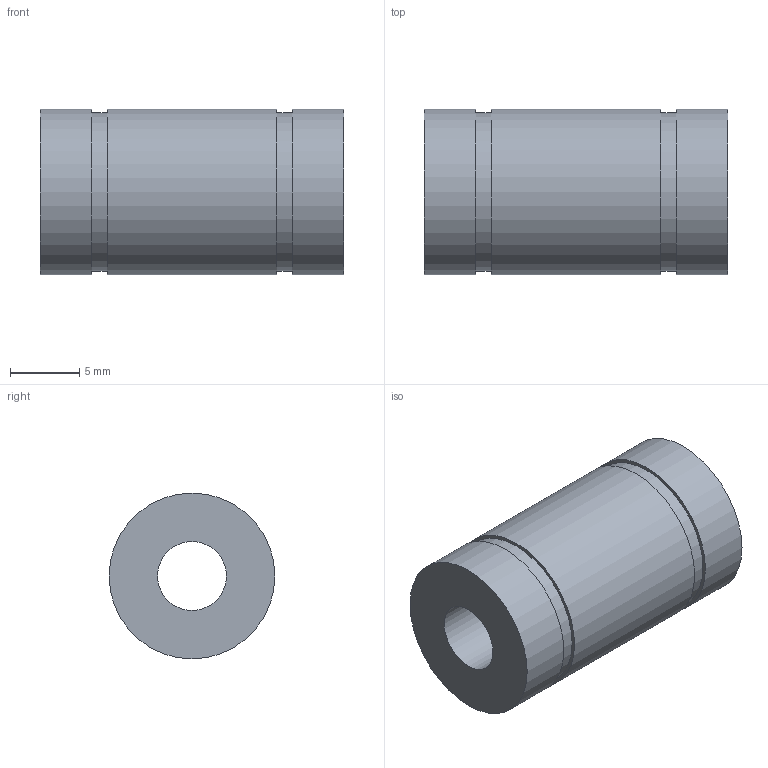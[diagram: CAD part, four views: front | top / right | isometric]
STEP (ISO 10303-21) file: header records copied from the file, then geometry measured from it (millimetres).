
FILE_DESCRIPTION( ( 'STEP AP203' ), '1' );
FILE_NAME( 'p:/temp/worker_87/temp/exporttempdir_3928_77_NmOVF/format_0/LME5UU.stp', '2020-04-29T03:05:54', ( 'License CC BY-ND 4.0' ), ( 'CADENAS' ), ' ', 'PARTsolutions', ' ' );
FILE_SCHEMA( ( 'CONFIG_CONTROL_DESIGN' ) );
Length unit declared in the file: millimetre
Products named in the file (1): _LME5UU
Bounding box: 22 x 12 x 12 mm (x, y, z)
Volume: 2035.9 mm3; surface area: 1395.3 mm2
Topology: 1 solids, 1 shells, 12 faces, 18 edges, 12 vertices
Faces by surface type: plane 6, cylinder 6
Full cylindrical faces by diameter (mm): 5 x1, 11.5 x2, 12 x3
Entity records: 292 total; most frequent: DIRECTION 50, CARTESIAN_POINT 37, AXIS2_PLACEMENT_3D 25, EDGE_LOOP 24, ORIENTED_EDGE 24, FACE_OUTER_BOUND 18, ADVANCED_FACE 12, EDGE_CURVE 12
